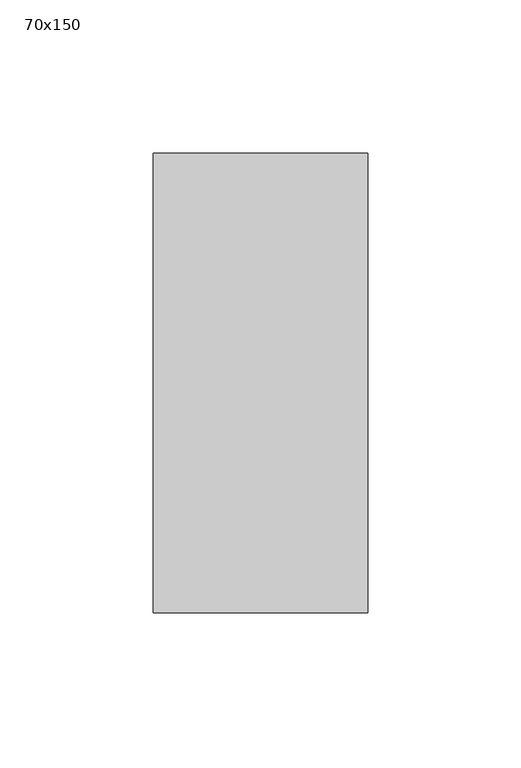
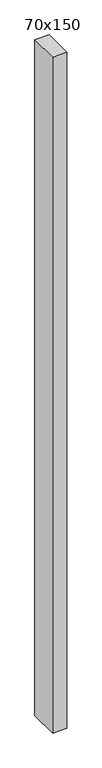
"""IFC4 building model written with IfcOpenShell, lengths in millimetres: member geometry, 長方形のマリオン : 70x150."""

from ifc_helpers import new_model, si_unit, frame, origin, place, context, project, spatial, polyline, outline, extrude, source, transform, mapped, element, save


def member_70x150_bd41fb14(model_context):
    return source(origin(), model_context, "Body", "SweptSolid", [
        extrude(outline(polyline([(0.0, 75.0), (0.0, -75.0), (-70.0, -75.0), (-70.0, 75.0), (0.0, 75.0)])), frame((0.0, 0.0, -3500.0), z_axis=(0.0, 0.0, 1.0), x_axis=(1.0, 0.0, 0.0)), (0.0, 0.0, 1.0), 3500.0),
    ])


if __name__ == "__main__":
    model = new_model("IFC4")
    model_context = context("Model", 3, world=origin())
    ifc_project = project(units=[si_unit("LENGTHUNIT", "METRE", prefix="MILLI")], contexts=[model_context])
    site = spatial("IfcSite", under=ifc_project)
    building = spatial("IfcBuilding", under=site)
    placement = place(None, origin())
    member_70x150_shape = member_70x150_bd41fb14(model_context)
    element("IfcMember", 1, ObjectType="長方形のマリオン : 70x150", at=placement, inside=building, context=model_context, shape_type="MappedRepresentation", body=[
        mapped(member_70x150_shape, transform((0.0, 0.0, 0.0), x_axis=(1.0, 0.0, 0.0), y_axis=(0.0, 1.0, 0.0), z_axis=(0.0, 0.0, 1.0))),
    ])
    save(model, "model.ifc")
